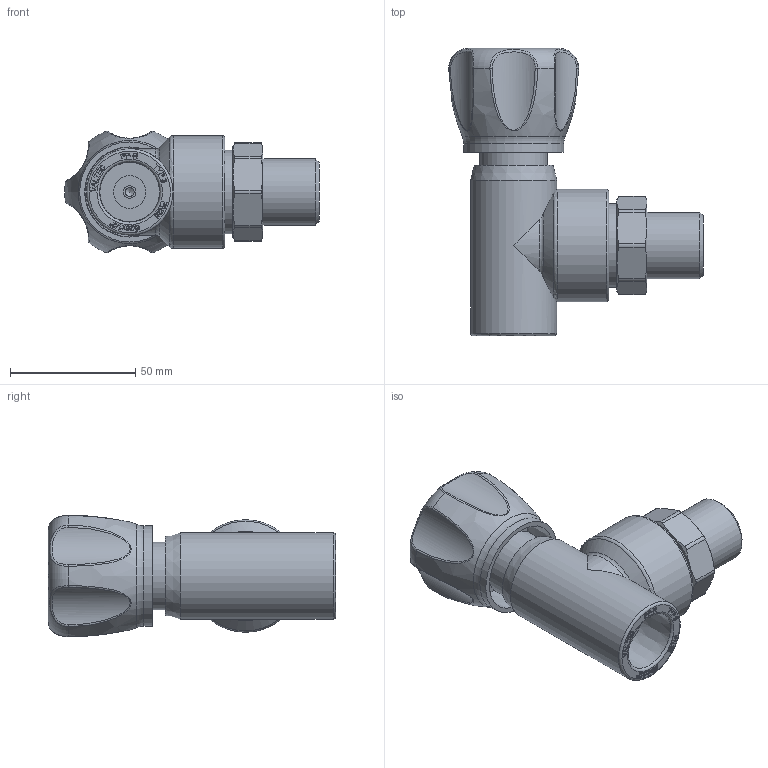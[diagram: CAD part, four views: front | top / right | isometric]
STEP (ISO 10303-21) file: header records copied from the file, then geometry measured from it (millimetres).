
FILE_DESCRIPTION(/* description */ (''),/* implementation_level */ '2;1');
FILE_NAME(/* name */ 'E:\Артём\00000\Работа удаленка\VTp.718.V.02505.stp',/* time_stamp */ '2020-03-31T13:15:02+03:00',/* author */ ('BeN_GaN'),/* organization */ (''),/* preprocessor_version */ 'ST-DEVELOPER v18',/* originating_system */ 'Autodesk Inventor 2020',/* authorisation */ '');
FILE_SCHEMA (('AUTOMOTIVE_DESIGN { 1 0 10303 214 3 1 1 }'));
Length unit declared in the file: millimetre
Products named in the file (1): VTp.718.V.02505
Bounding box: 101.72 x 114.95 x 48.54 mm (x, y, z)
Volume: 150697.2 mm3; surface area: 42297 mm2
Topology: 1 solids, 5 shells, 664 faces, 1778 edges, 1198 vertices
Faces by surface type: plane 411, bspline 152, cylinder 52, cone 31, torus 18
Full cylindrical faces by diameter (mm): 3.5 x1, 4.303 x1, 5 x1, 7.003 x1, 9.003 x1, 11.003 x1, 13 x2, 16.501 x1, 17.5 x1, 18.5 x2, 19.303 x2, 20 x2, 22 x3, 22.003 x1, 23 x1, 23.8 x1, 24.2 x1, 26.4 x1, 27 x1, 28.003 x1, 30.403 x1, 33.3 x1, 34.5 x1, 40.003 x1, 45 x1
Entity records: 22832 total; most frequent: CARTESIAN_POINT 7069, ORIENTED_EDGE 3554, DIRECTION 2693, EDGE_CURVE 1777, VERTEX_POINT 1198, LINE 1153, VECTOR 1153, AXIS2_PLACEMENT_3D 770
